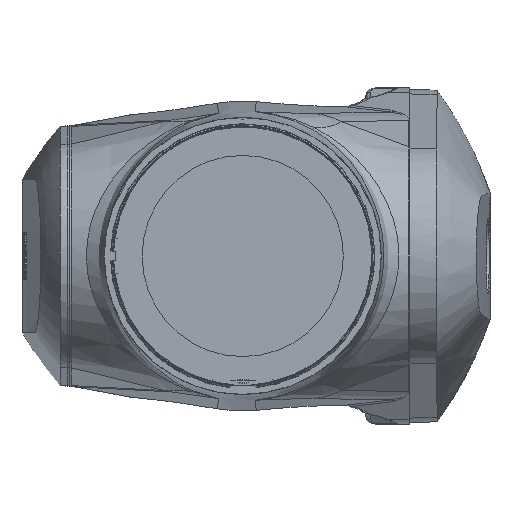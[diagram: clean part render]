
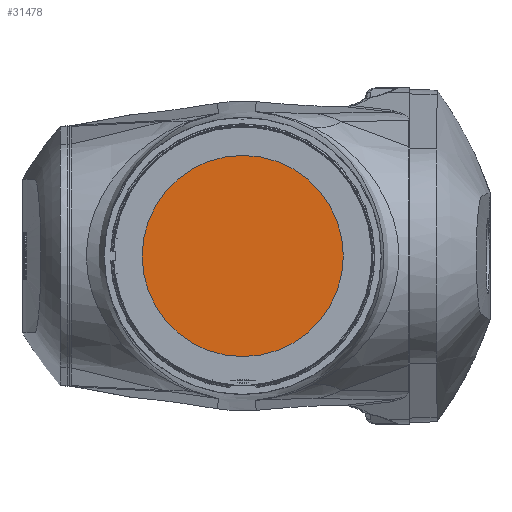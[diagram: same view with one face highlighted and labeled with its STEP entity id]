
A CAD part, left-side view. The second image highlights one B-rep face of the part: STEP entity #31478.
In plain terms, the highlighted planar face has unit normal (-1, 0, 0).
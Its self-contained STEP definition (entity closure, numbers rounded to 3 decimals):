
#1323 = CARTESIAN_POINT ( 'NONE',  ( 537., -85., 2010. ) ) ;
#3145 = DIRECTION ( 'NONE',  ( -1., 0., 0. ) ) ;
#3525 = DIRECTION ( 'NONE',  ( 0., -1., 0. ) ) ;
#11049 = DIRECTION ( 'NONE',  ( -1., 0., 0. ) ) ;
#11150 = CIRCLE ( 'NONE', #21324, 85. ) ;
#16978 = ORIENTED_EDGE ( 'NONE', *, *, #22414, .T. ) ;
#21324 = AXIS2_PLACEMENT_3D ( 'NONE', #32587, #3145, #3525 ) ;
#22414 = EDGE_CURVE ( 'NONE', #31152, #31152, #11150, .T. ) ;
#25197 = FACE_OUTER_BOUND ( 'NONE', #26788, .T. ) ;
#26788 = EDGE_LOOP ( 'NONE', ( #16978 ) ) ;
#28711 = AXIS2_PLACEMENT_3D ( 'NONE', #31577, #11049, #35334 ) ;
#31152 = VERTEX_POINT ( 'NONE', #1323 ) ;
#31478 = ADVANCED_FACE ( 'NONE', ( #25197 ), #37321, .T. ) ;
#31577 = CARTESIAN_POINT ( 'NONE',  ( 537., 0., 2010. ) ) ;
#32587 = CARTESIAN_POINT ( 'NONE',  ( 537., 0., 2010. ) ) ;
#35334 = DIRECTION ( 'NONE',  ( 0., -1., 0. ) ) ;
#37321 = PLANE ( 'NONE',  #28711 ) ;
